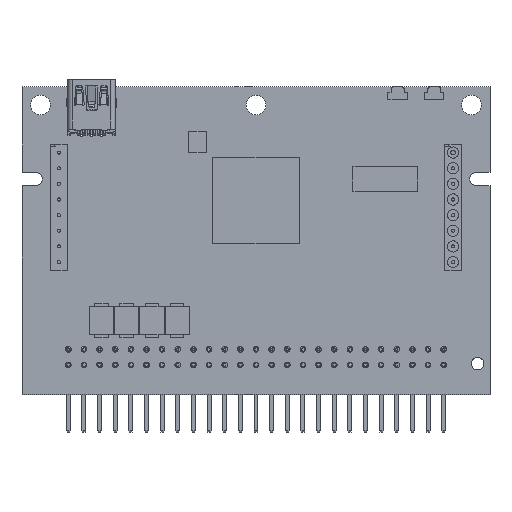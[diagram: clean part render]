
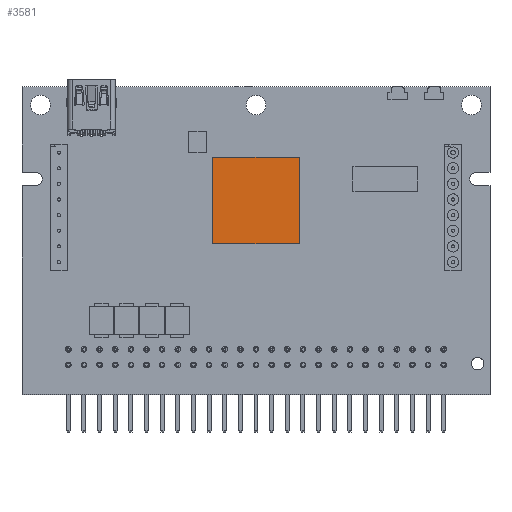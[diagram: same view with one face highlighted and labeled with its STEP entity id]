
A CAD part, top view. The second image highlights one B-rep face of the part: STEP entity #3581.
In plain terms, the highlighted planar face has unit normal (0, 0, 1).
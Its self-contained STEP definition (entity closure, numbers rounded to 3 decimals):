
#525=PLANE('',#48760);
#3581=ADVANCED_FACE('',(#6263),#525,.T.);
#6263=FACE_OUTER_BOUND('',#8956,.T.);
#8956=EDGE_LOOP('',(#26708,#26709,#26710,#26711));
#12574=LINE('',#69175,#18423);
#12576=LINE('',#69179,#18425);
#12578=LINE('',#69183,#18427);
#12579=LINE('',#69185,#18428);
#18423=VECTOR('',#54891,1.);
#18425=VECTOR('',#54895,1.);
#18427=VECTOR('',#54899,1.);
#18428=VECTOR('',#54902,1.);
#26708=ORIENTED_EDGE('',*,*,#42607,.F.);
#26709=ORIENTED_EDGE('',*,*,#42606,.F.);
#26710=ORIENTED_EDGE('',*,*,#42604,.F.);
#26711=ORIENTED_EDGE('',*,*,#42602,.F.);
#37604=VERTEX_POINT('',#69172);
#37605=VERTEX_POINT('',#69174);
#37606=VERTEX_POINT('',#69178);
#37607=VERTEX_POINT('',#69182);
#42602=EDGE_CURVE('',#37605,#37604,#12574,.T.);
#42604=EDGE_CURVE('',#37604,#37606,#12576,.T.);
#42606=EDGE_CURVE('',#37606,#37607,#12578,.T.);
#42607=EDGE_CURVE('',#37607,#37605,#12579,.T.);
#48760=AXIS2_PLACEMENT_3D('',#69187,#54905,#54906);
#54891=DIRECTION('',(-1.,0.,0.));
#54895=DIRECTION('',(0.,1.,0.));
#54899=DIRECTION('',(1.,0.,0.));
#54902=DIRECTION('',(0.,-1.,0.));
#54905=DIRECTION('',(0.,0.,1.));
#54906=DIRECTION('',(-1.,0.,0.));
#69172=CARTESIAN_POINT('',(-7.,-22.5,1.6));
#69174=CARTESIAN_POINT('',(7.,-22.5,1.6));
#69175=CARTESIAN_POINT('',(7.,-22.5,1.6));
#69178=CARTESIAN_POINT('',(-7.,-8.5,1.6));
#69179=CARTESIAN_POINT('',(-7.,-22.5,1.6));
#69182=CARTESIAN_POINT('',(7.,-8.5,1.6));
#69183=CARTESIAN_POINT('',(-7.,-8.5,1.6));
#69185=CARTESIAN_POINT('',(7.,-8.5,1.6));
#69187=CARTESIAN_POINT('',(7.,-22.5,1.6));
